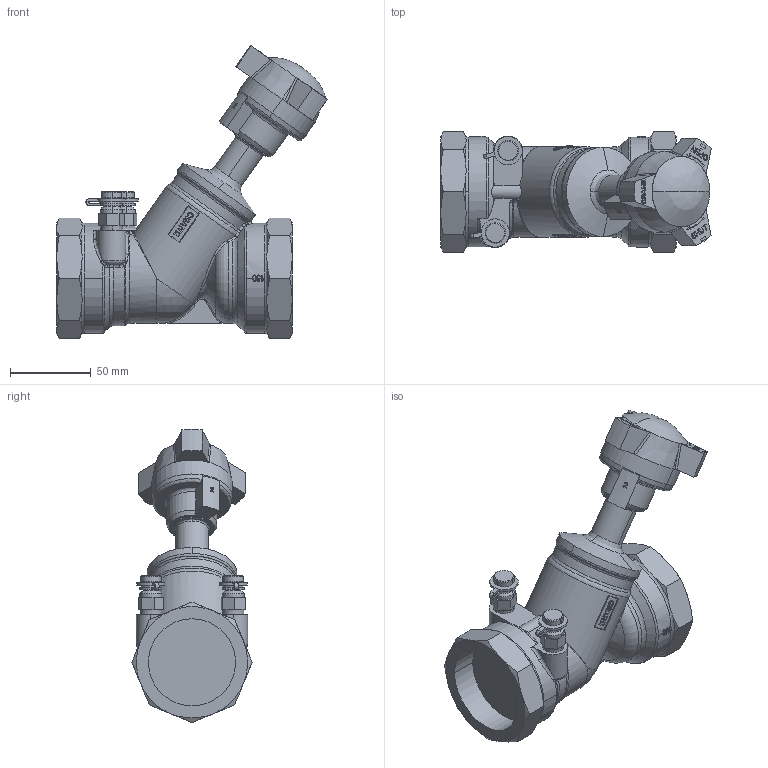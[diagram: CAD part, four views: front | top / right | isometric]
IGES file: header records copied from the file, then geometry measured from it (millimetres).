
Global section: file name: No Iges File Name specified; native system: AutoDesk Inventor R12.0; preprocessor: AutoDesk Inventor Iges Exporter R12.0; date: 20110307.095610; units: millimetre
Bounding box: 167.72 x 74.69 x 181.67 mm (x, y, z)
Volume: 566482.4 mm3; surface area: 68378.4 mm2
Topology: 1 solids, 1 shells, 1313 faces, 3659 edges, 2401 vertices
Faces by surface type: bspline 798, plane 352, cylinder 79, cone 58, revolution 14, torus 10, sphere 2
